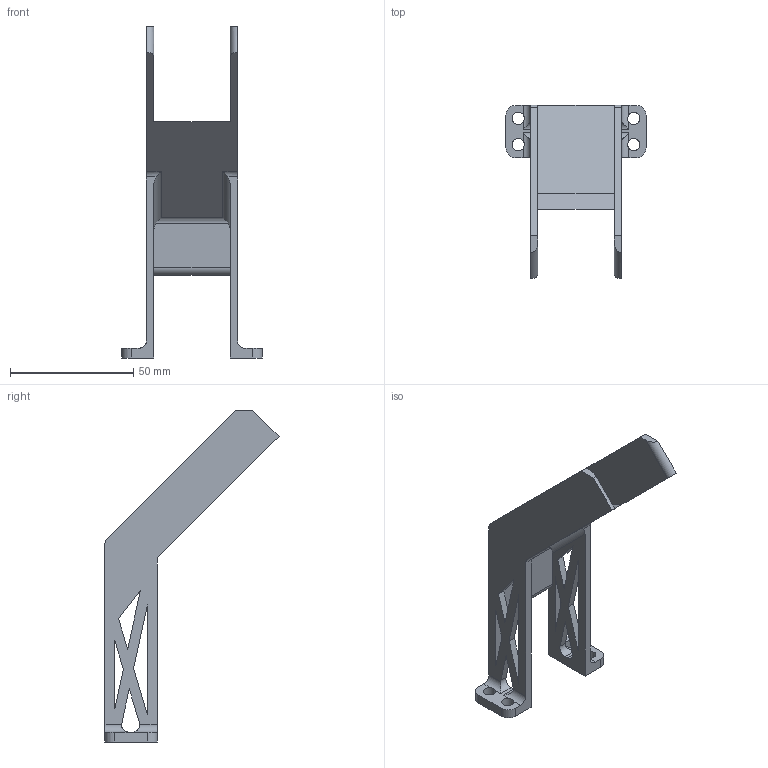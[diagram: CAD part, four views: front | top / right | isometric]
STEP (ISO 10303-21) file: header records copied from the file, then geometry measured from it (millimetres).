
FILE_DESCRIPTION(/* description */ ('STEP AP242 Edition 2','CAx-IF Rec.Pracs.---Representation and Presentation of Product Manufacturing Information (PMI)---4.0---2014-10-13','CAx-IF Rec.Pracs.---3D Tessellated Geometry---0.4---2014-09-14','2;1','CAx-IF Rec.Pracs.---User Defined Attributes---1.5---2016-08-15'),/* implementation_level */ '2;1');
FILE_NAME(/* name */ 'Part Studio 1 - Slide',/* time_stamp */ '2026-04-09T20:19:24Z',/* author */ (''),/* organization */ (''),/* preprocessor_version */ 'ST-DEVELOPER v20',/* originating_system */ 'ONSHAPE BY PTC INC, 1.213',/* authorisation */ ' ');
FILE_SCHEMA (('AP242_MANAGED_MODEL_BASED_3D_ENGINEERING_MIM_LF { 1 0 10303 442 3 1 4 }'));
Length unit declared in the file: metre
Products named in the file (1): Slide
Bounding box: 57 x 70.71 x 134.89 mm (x, y, z)
Volume: 24270.1 mm3; surface area: 20340.1 mm2
Topology: 1 solids, 1 shells, 71 faces, 225 edges, 150 vertices
Faces by surface type: plane 45, cylinder 26
Full cylindrical faces by diameter (mm): 5 x4
Entity records: 2513 total; most frequent: CARTESIAN_POINT 451, ORIENTED_EDGE 434, DIRECTION 409, EDGE_CURVE 217, LINE 161, VECTOR 161, VERTEX_POINT 146, AXIS2_PLACEMENT_3D 124
